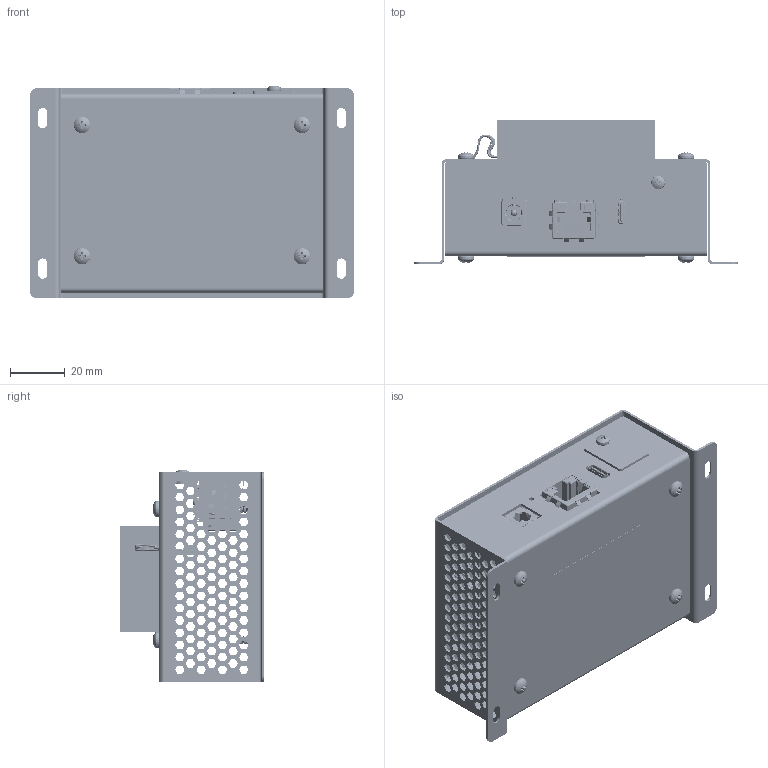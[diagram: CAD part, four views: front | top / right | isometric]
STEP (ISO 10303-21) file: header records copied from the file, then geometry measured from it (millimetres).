
FILE_DESCRIPTION (( 'STEP AP214' ), '1' );
FILE_NAME ('CORE03-XX_Website.STEP', '2025-11-28T18:03:34', ( '' ), ( '' ), 'SwSTEP 2.0', 'SolidWorks 2023', '' );
FILE_SCHEMA (( 'AUTOMOTIVE_DESIGN' ));
Length unit declared in the file: millimetre
Products named in the file (1): CORE03-XX_Website
Bounding box: 118.32 x 52.86 x 77.81 mm (x, y, z)
Surface area: 80446.9 mm2 (no closed solid volume)
Topology: 0 solids, 88 shells, 9094 faces, 25370 edges, 16562 vertices
Faces by surface type: plane 5402, cylinder 2976, bspline 453, cone 164, torus 63, sphere 36
Full cylindrical faces by diameter (mm): 0.65 x16, 1.6 x3, 1.65 x3, 1.96 x1, 2 x1, 2.9 x1, 3 x5, 3.4 x8, 4.22 x1, 6 x1, 19 x1, 22.51 x1
Entity records: 341580 total; most frequent: CARTESIAN_POINT 112472, ORIENTED_EDGE 50438, DIRECTION 43761, EDGE_CURVE 25267, VECTOR 16991, LINE 16991, VERTEX_POINT 16531, AXIS2_PLACEMENT_3D 13385
